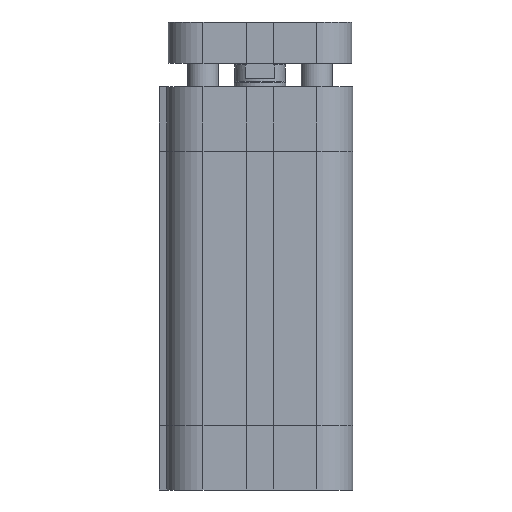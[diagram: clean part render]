
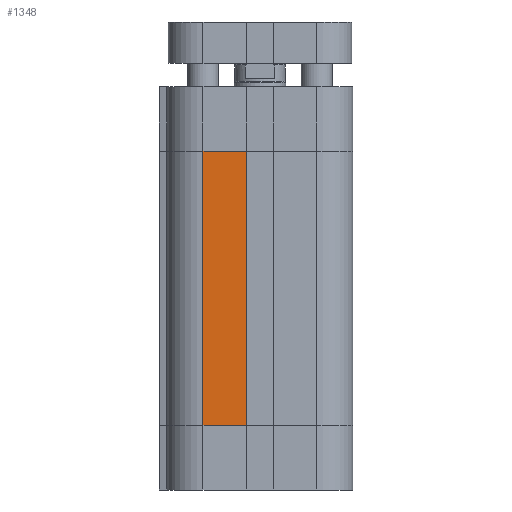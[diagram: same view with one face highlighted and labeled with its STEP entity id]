
A CAD part, left-side view. The second image highlights one B-rep face of the part: STEP entity #1348.
In plain terms, the highlighted planar face has unit normal (-1, 0, 0).
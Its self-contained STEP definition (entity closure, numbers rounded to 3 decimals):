
#1259=CARTESIAN_POINT('',(-18.,11.0,12.5));
#1260=VERTEX_POINT('',#1259);
#1268=CARTESIAN_POINT('',(-18.,11.0,65.5));
#1269=VERTEX_POINT('',#1268);
#1270=CARTESIAN_POINT('',(-18.,11.0,12.5));
#1271=DIRECTION('',(0.0,0.0,1.0));
#1272=VECTOR('',#1271,53.0);
#1273=LINE('',#1270,#1272);
#1274=EDGE_CURVE('',#1260,#1269,#1273,.T.);
#1318=CARTESIAN_POINT('',(-18.0,2.6,0.0));
#1319=DIRECTION('',(-1.0,0.0,0.0));
#1320=DIRECTION('',(0.0,0.0,1.0));
#1321=AXIS2_PLACEMENT_3D('',#1318,#1319,#1320);
#1322=PLANE('',#1321);
#1323=CARTESIAN_POINT('',(-18.0,2.6,12.5));
#1324=VERTEX_POINT('',#1323);
#1325=CARTESIAN_POINT('',(-18.,11.0,12.5));
#1326=DIRECTION('',(0.0,-1.0,0.0));
#1327=VECTOR('',#1326,8.4);
#1328=LINE('',#1325,#1327);
#1329=EDGE_CURVE('',#1260,#1324,#1328,.T.);
#1330=ORIENTED_EDGE('',*,*,#1329,.T.);
#1331=CARTESIAN_POINT('',(-18.0,2.6,65.5));
#1332=VERTEX_POINT('',#1331);
#1333=CARTESIAN_POINT('',(-18.0,2.6,12.5));
#1334=DIRECTION('',(0.0,0.0,1.0));
#1335=VECTOR('',#1334,53.0);
#1336=LINE('',#1333,#1335);
#1337=EDGE_CURVE('',#1324,#1332,#1336,.T.);
#1338=ORIENTED_EDGE('',*,*,#1337,.T.);
#1339=CARTESIAN_POINT('',(-18.,11.0,65.5));
#1340=DIRECTION('',(0.0,-1.0,0.0));
#1341=VECTOR('',#1340,8.4);
#1342=LINE('',#1339,#1341);
#1343=EDGE_CURVE('',#1269,#1332,#1342,.T.);
#1344=ORIENTED_EDGE('',*,*,#1343,.F.);
#1345=ORIENTED_EDGE('',*,*,#1274,.F.);
#1346=EDGE_LOOP('',(#1330,#1338,#1344,#1345));
#1347=FACE_OUTER_BOUND('',#1346,.T.);
#1348=ADVANCED_FACE('',(#1347),#1322,.T.);
